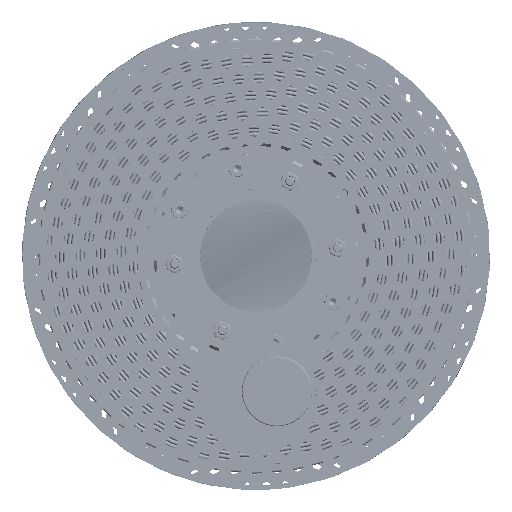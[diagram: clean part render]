
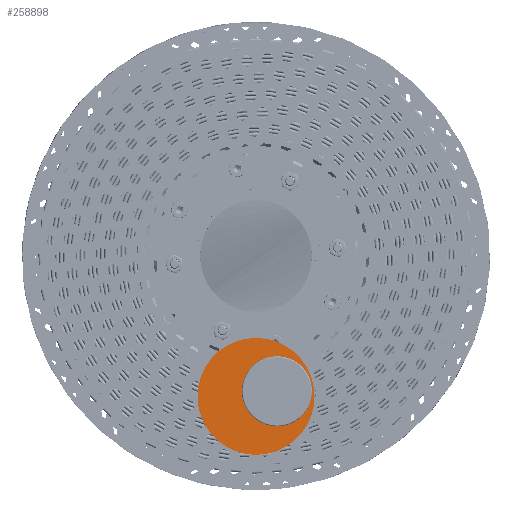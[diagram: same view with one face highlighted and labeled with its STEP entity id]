
A CAD part, left-side view. The second image highlights one B-rep face of the part: STEP entity #258898.
In plain terms, the highlighted planar face has unit normal (-1, 0, 0) as drawn and (0, 0, 1) by its records, which use the part's own axes.
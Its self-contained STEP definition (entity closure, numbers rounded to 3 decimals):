
#25910=CIRCLE('',#276668,15.);
#25911=CIRCLE('',#276671,25.);
#103436=VERTEX_POINT('',#683797);
#103437=VERTEX_POINT('',#683801);
#139638=EDGE_CURVE('',#103436,#103436,#25910,.T.);
#139639=EDGE_CURVE('',#103437,#103437,#25911,.T.);
#211446=ORIENTED_EDGE('',*,*,#139638,.T.);
#211447=ORIENTED_EDGE('',*,*,#139639,.F.);
#228202=EDGE_LOOP('',(#211446));
#228203=EDGE_LOOP('',(#211447));
#244789=FACE_BOUND('',#228202,.T.);
#244790=FACE_BOUND('',#228203,.T.);
#258898=ADVANCED_FACE('',(#244789,#244790),#693023,.T.);
#276668=AXIS2_PLACEMENT_3D('',#683796,#330276,#330277);
#276671=AXIS2_PLACEMENT_3D('',#683800,#330281,#330282);
#276673=AXIS2_PLACEMENT_3D('',#683804,#330285,$);
#330276=DIRECTION('',(0.,0.,-1.));
#330277=DIRECTION('',(15.,0.,0.));
#330281=DIRECTION('',(0.,0.,-1.));
#330282=DIRECTION('',(25.,0.,0.));
#330285=DIRECTION('',(0.,0.,1.));
#683796=CARTESIAN_POINT('',(2.189,-8.952,1.));
#683797=CARTESIAN_POINT('',(17.189,-8.952,1.));
#683800=CARTESIAN_POINT('',(0.,0.,1.));
#683801=CARTESIAN_POINT('',(25.,0.,1.));
#683804=CARTESIAN_POINT('',(0.,0.,1.));
#693023=PLANE('',#276673);
